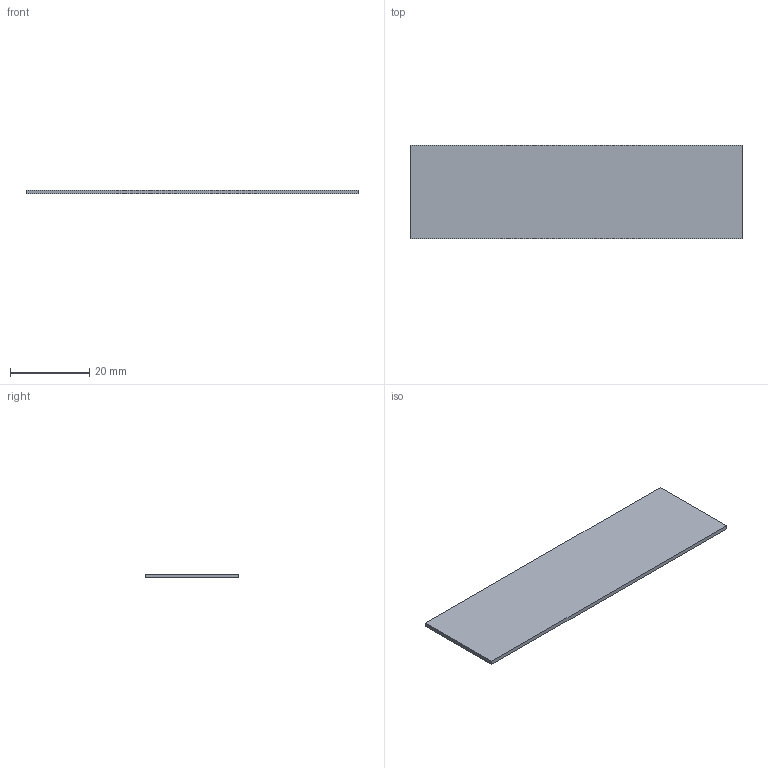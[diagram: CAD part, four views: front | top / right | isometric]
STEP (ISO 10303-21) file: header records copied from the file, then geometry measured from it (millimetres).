
FILE_DESCRIPTION(/* description */ (''),/* implementation_level */ '2;1');
FILE_NAME(/* name */ '6-08-1 Color plate.step',/* time_stamp */ '2025-05-10T22:37:05+02:00',/* author */ (''),/* organization */ (''),/* preprocessor_version */ 'ST-DEVELOPER v20.1',/* originating_system */ 'Autodesk Translation Framework v14.4.0.0',/* authorisation */ '');
FILE_SCHEMA (('AUTOMOTIVE_DESIGN { 1 0 10303 214 3 1 1 }'));
Length unit declared in the file: millimetre
Products named in the file (1): 6-08-1 Color plate
Bounding box: 83.6 x 23.6 x 1 mm (x, y, z)
Volume: 1973 mm3; surface area: 4160.3 mm2
Topology: 1 solids, 1 shells, 6 faces, 12 edges, 8 vertices
Faces by surface type: plane 6
Entity records: 196 total; most frequent: CARTESIAN_POINT 27, DIRECTION 26, ORIENTED_EDGE 24, LINE 12, VECTOR 12, EDGE_CURVE 12, VERTEX_POINT 8, AXIS2_PLACEMENT_3D 7
